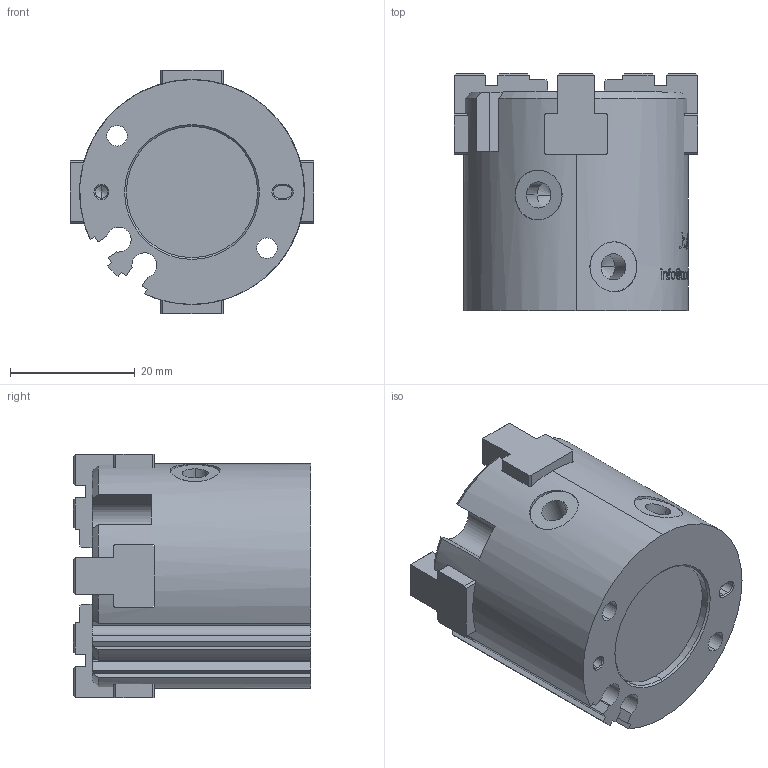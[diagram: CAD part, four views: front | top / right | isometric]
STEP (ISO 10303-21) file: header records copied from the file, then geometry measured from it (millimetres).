
FILE_DESCRIPTION (( 'STEP AP203' ), '1' );
FILE_NAME ('GPS 4-36-原始檔-組合-W106.04.17.STEP', '2017-04-17T01:12:34', ( 'DanyaoCAD' ), ( '' ), 'SwSTEP 2.0', 'SolidWorks 2016', '' );
FILE_SCHEMA (( 'CONFIG_CONTROL_DESIGN' ));
Length unit declared in the file: millimetre
Products named in the file (4): Coperchio; Griffa; Corpo; GPS 4-36-原始檔-組合-W106.04.17
Assembly tree (6 placements, depth 2):
  GPS 4-36-原始檔-組合-W106.04.17
    Coperchio
    Griffa  x4
    Corpo
Bounding box: 39 x 38 x 39 mm (x, y, z)
Volume: 32925.3 mm3; surface area: 13569.5 mm2
Topology: 6 solids, 6 shells, 1109 faces, 3067 edges, 2009 vertices
Faces by surface type: bspline 665, plane 293, cylinder 115, cone 36
Entity records: 66874 total; most frequent: CARTESIAN_POINT 47030, ORIENTED_EDGE 5502, EDGE_CURVE 2751, B_SPLINE_CURVE_WITH_KNOTS 2078, VERTEX_POINT 1823, DIRECTION 1495, EDGE_LOOP 1048, FACE_OUTER_BOUND 989
